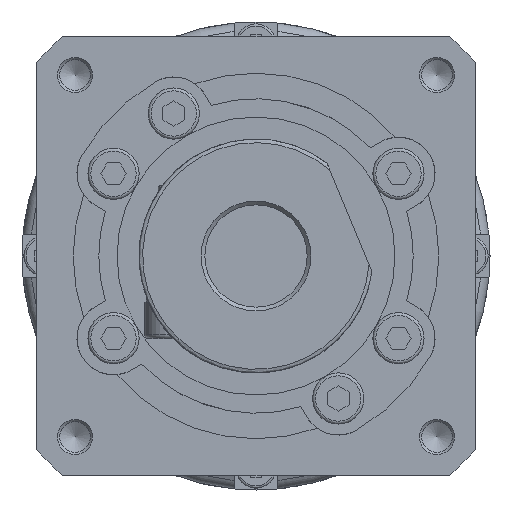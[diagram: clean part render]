
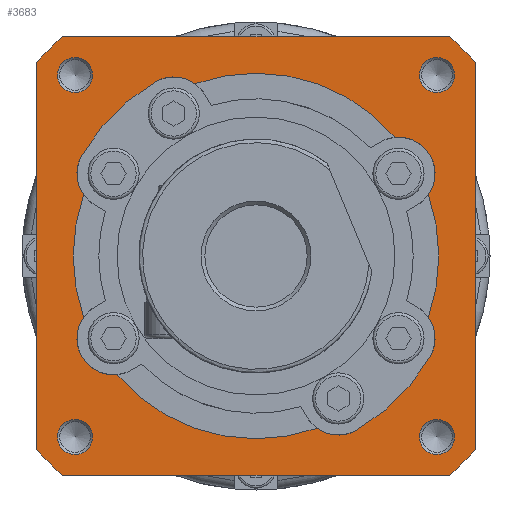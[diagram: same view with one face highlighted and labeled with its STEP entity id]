
A CAD part, left-side view. The second image highlights one B-rep face of the part: STEP entity #3683.
In plain terms, the highlighted planar face has unit normal (-1, 0, 0).
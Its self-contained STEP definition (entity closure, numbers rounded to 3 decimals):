
#2317=LINE('',#10751,#2734);
#2318=LINE('',#10755,#2735);
#2319=LINE('',#10759,#2736);
#2320=LINE('',#10763,#2737);
#2734=VECTOR('',#8662,1.);
#2735=VECTOR('',#8665,1.);
#2736=VECTOR('',#8668,1.);
#2737=VECTOR('',#8671,1.);
#3131=PLANE('',#7696);
#3345=FACE_BOUND('',#4285,.T.);
#3346=FACE_BOUND('',#4286,.T.);
#3347=FACE_BOUND('',#4287,.T.);
#3348=FACE_BOUND('',#4288,.T.);
#3349=FACE_BOUND('',#4289,.T.);
#3350=FACE_BOUND('',#4290,.T.);
#3683=ADVANCED_FACE('',(#3345,#3346,#3347,#3348,#3349,#3350),#3131,.T.);
#4285=EDGE_LOOP('',(#5419));
#4286=EDGE_LOOP('',(#5420));
#4287=EDGE_LOOP('',(#5421));
#4288=EDGE_LOOP('',(#5422));
#4289=EDGE_LOOP('',(#5423,#5424,#5425,#5426,#5427,#5428,#5429,#5430,#5431,
#5432,#5433,#5434));
#4290=EDGE_LOOP('',(#5435,#5436,#5437,#5438,#5439,#5440,#5441,#5442));
#4661=CIRCLE('',#7676,2.4);
#4662=CIRCLE('',#7677,2.4);
#4663=CIRCLE('',#7678,2.4);
#4664=CIRCLE('',#7679,2.4);
#4665=CIRCLE('',#7680,5.);
#4666=CIRCLE('',#7681,25.);
#4667=CIRCLE('',#7682,5.);
#4668=CIRCLE('',#7683,25.);
#4669=CIRCLE('',#7684,5.);
#4670=CIRCLE('',#7685,27.5);
#4671=CIRCLE('',#7686,5.);
#4672=CIRCLE('',#7687,25.);
#4673=CIRCLE('',#7688,5.);
#4674=CIRCLE('',#7689,25.);
#4675=CIRCLE('',#7690,5.);
#4676=CIRCLE('',#7691,27.5);
#4677=CIRCLE('',#7692,40.);
#4678=CIRCLE('',#7693,40.);
#4679=CIRCLE('',#7694,40.);
#4680=CIRCLE('',#7695,40.);
#5419=ORIENTED_EDGE('',*,*,#7029,.T.);
#5420=ORIENTED_EDGE('',*,*,#7030,.T.);
#5421=ORIENTED_EDGE('',*,*,#7031,.T.);
#5422=ORIENTED_EDGE('',*,*,#7032,.T.);
#5423=ORIENTED_EDGE('',*,*,#7033,.F.);
#5424=ORIENTED_EDGE('',*,*,#7034,.T.);
#5425=ORIENTED_EDGE('',*,*,#7035,.F.);
#5426=ORIENTED_EDGE('',*,*,#7036,.T.);
#5427=ORIENTED_EDGE('',*,*,#7037,.F.);
#5428=ORIENTED_EDGE('',*,*,#7038,.F.);
#5429=ORIENTED_EDGE('',*,*,#7039,.F.);
#5430=ORIENTED_EDGE('',*,*,#7040,.T.);
#5431=ORIENTED_EDGE('',*,*,#7041,.F.);
#5432=ORIENTED_EDGE('',*,*,#7042,.T.);
#5433=ORIENTED_EDGE('',*,*,#7043,.F.);
#5434=ORIENTED_EDGE('',*,*,#7044,.F.);
#5435=ORIENTED_EDGE('',*,*,#7045,.T.);
#5436=ORIENTED_EDGE('',*,*,#7046,.T.);
#5437=ORIENTED_EDGE('',*,*,#7047,.T.);
#5438=ORIENTED_EDGE('',*,*,#7048,.T.);
#5439=ORIENTED_EDGE('',*,*,#7049,.T.);
#5440=ORIENTED_EDGE('',*,*,#7050,.T.);
#5441=ORIENTED_EDGE('',*,*,#7051,.T.);
#5442=ORIENTED_EDGE('',*,*,#7052,.T.);
#6434=VERTEX_POINT('',#10717);
#6435=VERTEX_POINT('',#10719);
#6436=VERTEX_POINT('',#10721);
#6437=VERTEX_POINT('',#10723);
#6438=VERTEX_POINT('',#10725);
#6439=VERTEX_POINT('',#10726);
#6440=VERTEX_POINT('',#10728);
#6441=VERTEX_POINT('',#10730);
#6442=VERTEX_POINT('',#10732);
#6443=VERTEX_POINT('',#10734);
#6444=VERTEX_POINT('',#10736);
#6445=VERTEX_POINT('',#10738);
#6446=VERTEX_POINT('',#10740);
#6447=VERTEX_POINT('',#10742);
#6448=VERTEX_POINT('',#10744);
#6449=VERTEX_POINT('',#10746);
#6450=VERTEX_POINT('',#10749);
#6451=VERTEX_POINT('',#10750);
#6452=VERTEX_POINT('',#10752);
#6453=VERTEX_POINT('',#10754);
#6454=VERTEX_POINT('',#10756);
#6455=VERTEX_POINT('',#10758);
#6456=VERTEX_POINT('',#10760);
#6457=VERTEX_POINT('',#10762);
#7029=EDGE_CURVE('',#6434,#6434,#4661,.T.);
#7030=EDGE_CURVE('',#6435,#6435,#4662,.T.);
#7031=EDGE_CURVE('',#6436,#6436,#4663,.T.);
#7032=EDGE_CURVE('',#6437,#6437,#4664,.T.);
#7033=EDGE_CURVE('',#6438,#6439,#4665,.T.);
#7034=EDGE_CURVE('',#6438,#6440,#4666,.T.);
#7035=EDGE_CURVE('',#6441,#6440,#4667,.T.);
#7036=EDGE_CURVE('',#6441,#6442,#4668,.T.);
#7037=EDGE_CURVE('',#6443,#6442,#4669,.T.);
#7038=EDGE_CURVE('',#6444,#6443,#4670,.T.);
#7039=EDGE_CURVE('',#6445,#6444,#4671,.T.);
#7040=EDGE_CURVE('',#6445,#6446,#4672,.T.);
#7041=EDGE_CURVE('',#6447,#6446,#4673,.T.);
#7042=EDGE_CURVE('',#6447,#6448,#4674,.T.);
#7043=EDGE_CURVE('',#6449,#6448,#4675,.T.);
#7044=EDGE_CURVE('',#6439,#6449,#4676,.T.);
#7045=EDGE_CURVE('',#6450,#6451,#4677,.T.);
#7046=EDGE_CURVE('',#6451,#6452,#2317,.T.);
#7047=EDGE_CURVE('',#6452,#6453,#4678,.T.);
#7048=EDGE_CURVE('',#6453,#6454,#2318,.T.);
#7049=EDGE_CURVE('',#6454,#6455,#4679,.T.);
#7050=EDGE_CURVE('',#6455,#6456,#2319,.T.);
#7051=EDGE_CURVE('',#6456,#6457,#4680,.T.);
#7052=EDGE_CURVE('',#6457,#6450,#2320,.T.);
#7676=AXIS2_PLACEMENT_3D('',#10716,#8628,#8629);
#7677=AXIS2_PLACEMENT_3D('',#10718,#8630,#8631);
#7678=AXIS2_PLACEMENT_3D('',#10720,#8632,#8633);
#7679=AXIS2_PLACEMENT_3D('',#10722,#8634,#8635);
#7680=AXIS2_PLACEMENT_3D('',#10724,#8636,#8637);
#7681=AXIS2_PLACEMENT_3D('',#10727,#8638,#8639);
#7682=AXIS2_PLACEMENT_3D('',#10729,#8640,#8641);
#7683=AXIS2_PLACEMENT_3D('',#10731,#8642,#8643);
#7684=AXIS2_PLACEMENT_3D('',#10733,#8644,#8645);
#7685=AXIS2_PLACEMENT_3D('',#10735,#8646,#8647);
#7686=AXIS2_PLACEMENT_3D('',#10737,#8648,#8649);
#7687=AXIS2_PLACEMENT_3D('',#10739,#8650,#8651);
#7688=AXIS2_PLACEMENT_3D('',#10741,#8652,#8653);
#7689=AXIS2_PLACEMENT_3D('',#10743,#8654,#8655);
#7690=AXIS2_PLACEMENT_3D('',#10745,#8656,#8657);
#7691=AXIS2_PLACEMENT_3D('',#10747,#8658,#8659);
#7692=AXIS2_PLACEMENT_3D('',#10748,#8660,#8661);
#7693=AXIS2_PLACEMENT_3D('',#10753,#8663,#8664);
#7694=AXIS2_PLACEMENT_3D('',#10757,#8666,#8667);
#7695=AXIS2_PLACEMENT_3D('',#10761,#8669,#8670);
#7696=AXIS2_PLACEMENT_3D('',#10764,#8672,#8673);
#8628=DIRECTION('',(1.,0.,0.));
#8629=DIRECTION('',(0.,0.,1.));
#8630=DIRECTION('',(1.,0.,0.));
#8631=DIRECTION('',(0.,0.,1.));
#8632=DIRECTION('',(1.,0.,0.));
#8633=DIRECTION('',(0.,0.,1.));
#8634=DIRECTION('',(1.,0.,0.));
#8635=DIRECTION('',(0.,0.,1.));
#8636=DIRECTION('',(-1.,0.,0.));
#8637=DIRECTION('',(0.,0.,-1.));
#8638=DIRECTION('',(1.,0.,0.));
#8639=DIRECTION('',(0.,0.,1.));
#8640=DIRECTION('',(-1.,0.,0.));
#8641=DIRECTION('',(0.,0.,-1.));
#8642=DIRECTION('',(1.,0.,0.));
#8643=DIRECTION('',(0.,0.,1.));
#8644=DIRECTION('',(-1.,0.,0.));
#8645=DIRECTION('',(0.,0.,-1.));
#8646=DIRECTION('',(-1.,0.,0.));
#8647=DIRECTION('',(0.,0.,-1.));
#8648=DIRECTION('',(-1.,0.,0.));
#8649=DIRECTION('',(0.,0.,-1.));
#8650=DIRECTION('',(1.,0.,0.));
#8651=DIRECTION('',(0.,0.,1.));
#8652=DIRECTION('',(-1.,0.,0.));
#8653=DIRECTION('',(0.,0.,-1.));
#8654=DIRECTION('',(1.,0.,0.));
#8655=DIRECTION('',(0.,0.,1.));
#8656=DIRECTION('',(-1.,0.,0.));
#8657=DIRECTION('',(0.,0.,-1.));
#8658=DIRECTION('',(-1.,0.,0.));
#8659=DIRECTION('',(0.,0.,-1.));
#8660=DIRECTION('',(-1.,0.,0.));
#8661=DIRECTION('',(0.,0.,-1.));
#8662=DIRECTION('',(0.,1.,0.));
#8663=DIRECTION('',(-1.,0.,0.));
#8664=DIRECTION('',(0.,0.,-1.));
#8665=DIRECTION('',(0.,0.,-1.));
#8666=DIRECTION('',(-1.,0.,0.));
#8667=DIRECTION('',(0.,0.,-1.));
#8668=DIRECTION('',(0.,-1.,0.));
#8669=DIRECTION('',(-1.,0.,0.));
#8670=DIRECTION('',(0.,0.,-1.));
#8671=DIRECTION('',(0.,0.,1.));
#8672=DIRECTION('',(-1.,0.,0.));
#8673=DIRECTION('',(0.,0.,1.));
#10716=CARTESIAN_POINT('',(-141.5,24.749,-24.749));
#10717=CARTESIAN_POINT('',(-141.5,24.749,-22.349));
#10718=CARTESIAN_POINT('',(-141.5,24.749,24.749));
#10719=CARTESIAN_POINT('',(-141.5,24.749,27.149));
#10720=CARTESIAN_POINT('',(-141.5,-24.749,24.749));
#10721=CARTESIAN_POINT('',(-141.5,-24.749,27.149));
#10722=CARTESIAN_POINT('',(-141.5,-24.749,-24.749));
#10723=CARTESIAN_POINT('',(-141.5,-24.749,-22.349));
#10724=CARTESIAN_POINT('',(-141.5,11.25,19.486));
#10725=CARTESIAN_POINT('',(-141.5,8.355,23.562));
#10726=CARTESIAN_POINT('',(-141.5,13.75,23.816));
#10727=CARTESIAN_POINT('',(-141.5,0.,0.));
#10728=CARTESIAN_POINT('',(-141.5,-19.017,16.228));
#10729=CARTESIAN_POINT('',(-141.5,-19.486,11.25));
#10730=CARTESIAN_POINT('',(-141.5,-23.562,8.355));
#10731=CARTESIAN_POINT('',(-141.5,0.,0.));
#10732=CARTESIAN_POINT('',(-141.5,-23.562,-8.355));
#10733=CARTESIAN_POINT('',(-141.5,-19.486,-11.25));
#10734=CARTESIAN_POINT('',(-141.5,-23.816,-13.75));
#10735=CARTESIAN_POINT('',(-141.5,0.,0.));
#10736=CARTESIAN_POINT('',(-141.5,-13.75,-23.816));
#10737=CARTESIAN_POINT('',(-141.5,-11.25,-19.486));
#10738=CARTESIAN_POINT('',(-141.5,-8.355,-23.562));
#10739=CARTESIAN_POINT('',(-141.5,0.,0.));
#10740=CARTESIAN_POINT('',(-141.5,19.017,-16.228));
#10741=CARTESIAN_POINT('',(-141.5,19.486,-11.25));
#10742=CARTESIAN_POINT('',(-141.5,23.562,-8.355));
#10743=CARTESIAN_POINT('',(-141.5,0.,0.));
#10744=CARTESIAN_POINT('',(-141.5,23.562,8.355));
#10745=CARTESIAN_POINT('',(-141.5,19.486,11.25));
#10746=CARTESIAN_POINT('',(-141.5,23.816,13.75));
#10747=CARTESIAN_POINT('',(-141.5,0.,0.));
#10748=CARTESIAN_POINT('',(-141.5,0.,0.));
#10749=CARTESIAN_POINT('',(-141.5,-30.,26.458));
#10750=CARTESIAN_POINT('',(-141.5,-26.458,30.));
#10751=CARTESIAN_POINT('',(-141.5,-26.458,30.));
#10752=CARTESIAN_POINT('',(-141.5,26.458,30.));
#10753=CARTESIAN_POINT('',(-141.5,0.,0.));
#10754=CARTESIAN_POINT('',(-141.5,30.,26.458));
#10755=CARTESIAN_POINT('',(-141.5,30.,26.458));
#10756=CARTESIAN_POINT('',(-141.5,30.,-26.458));
#10757=CARTESIAN_POINT('',(-141.5,0.,0.));
#10758=CARTESIAN_POINT('',(-141.5,26.458,-30.));
#10759=CARTESIAN_POINT('',(-141.5,26.458,-30.));
#10760=CARTESIAN_POINT('',(-141.5,-26.458,-30.));
#10761=CARTESIAN_POINT('',(-141.5,0.,0.));
#10762=CARTESIAN_POINT('',(-141.5,-30.,-26.458));
#10763=CARTESIAN_POINT('',(-141.5,-30.,-26.458));
#10764=CARTESIAN_POINT('',(-141.5,0.,0.));
